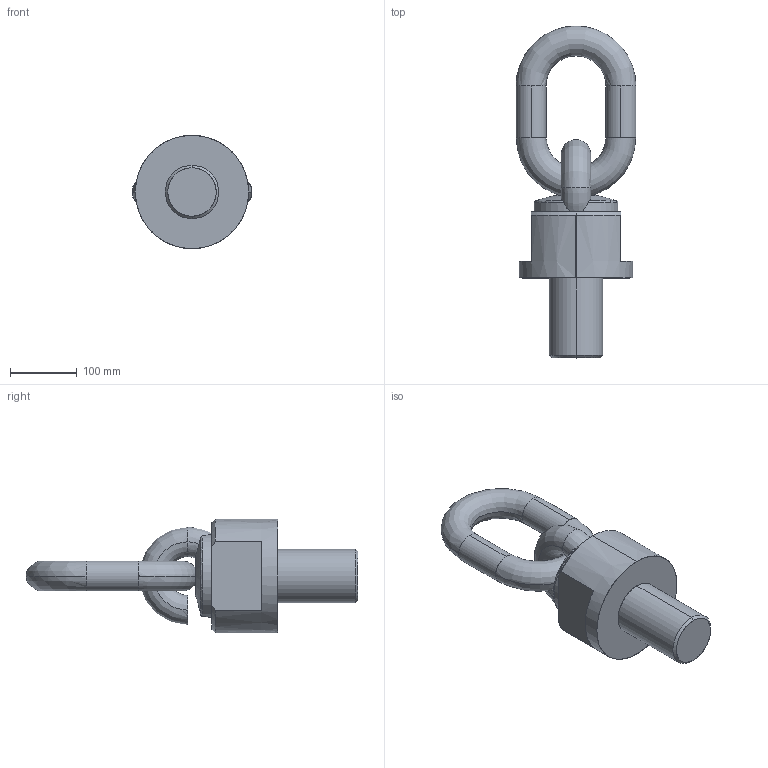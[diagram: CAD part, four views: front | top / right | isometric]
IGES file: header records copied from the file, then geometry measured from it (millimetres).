
Start section: START RECORD GO HERE.
Global section: file name: C800X35080120.igs; native system: DASSAULT SYSTEMES CATIA V5 R20 - www.3ds.com; preprocessor: CATIA Version 5 Release 20 ; author: Utente; organization: NB04-ASUS; date: 20200412.220845; units: millimetre
Bounding box: 180 x 498 x 170 mm (x, y, z)
Surface area: 233045.2 mm2 (no closed solid volume)
Topology: 0 solids, 0 shells, 42 faces, 233 edges, 233 vertices
Faces by surface type: revolution 30, extrusion 12
